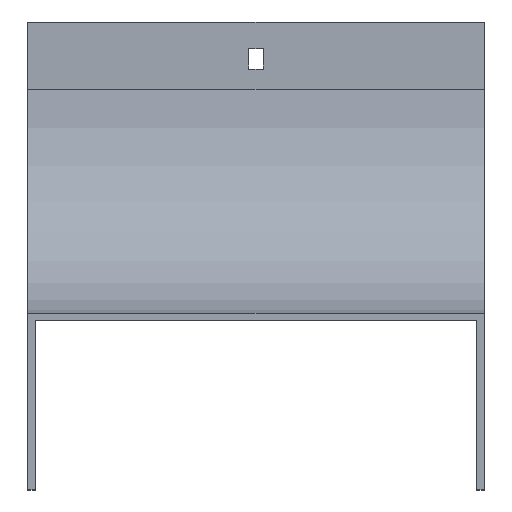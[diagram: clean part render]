
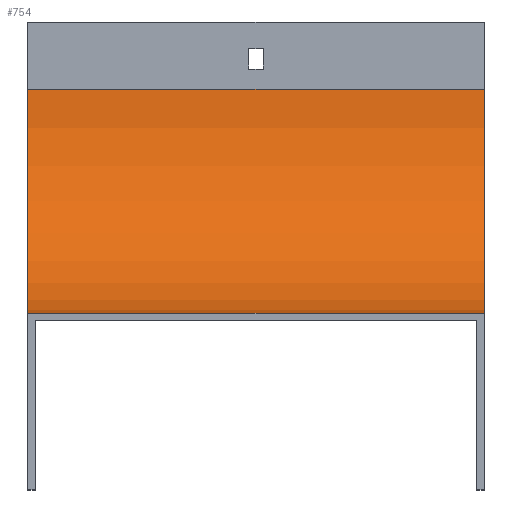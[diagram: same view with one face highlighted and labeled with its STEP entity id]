
A CAD part, front view. The second image highlights one B-rep face of the part: STEP entity #754.
In plain terms, the highlighted cylindrical face has radius 100 mm (diameter 200 mm), a partial arc.
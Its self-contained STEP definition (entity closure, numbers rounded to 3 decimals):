
#31 = CYLINDRICAL_SURFACE ( 'NONE', #1775, 100. ) ;
#204 = CARTESIAN_POINT ( 'NONE',  ( -102., -100., -130. ) ) ;
#268 = CARTESIAN_POINT ( 'NONE',  ( -102., 0., -30. ) ) ;
#309 = DIRECTION ( 'NONE',  ( -1., 0., 0. ) ) ;
#316 = EDGE_LOOP ( 'NONE', ( #1217, #617, #999, #1318 ) ) ;
#324 = AXIS2_PLACEMENT_3D ( 'NONE', #1812, #309, #1644 ) ;
#488 = DIRECTION ( 'NONE',  ( 0., 0., 1. ) ) ;
#561 = LINE ( 'NONE', #1627, #1456 ) ;
#617 = ORIENTED_EDGE ( 'NONE', *, *, #1671, .F. ) ;
#623 = CARTESIAN_POINT ( 'NONE',  ( 102., -100., -30. ) ) ;
#684 = LINE ( 'NONE', #1441, #954 ) ;
#698 = VERTEX_POINT ( 'NONE', #1833 ) ;
#754 = ADVANCED_FACE ( 'NONE', ( #1846 ), #31, .F. ) ;
#908 = DIRECTION ( 'NONE',  ( -1., 0., 0. ) ) ;
#911 = EDGE_CURVE ( 'NONE', #1338, #1388, #561, .T. ) ;
#954 = VECTOR ( 'NONE', #1171, 1000. ) ;
#988 = DIRECTION ( 'NONE',  ( -1., 0., 0. ) ) ;
#999 = ORIENTED_EDGE ( 'NONE', *, *, #1121, .F. ) ;
#1000 = EDGE_CURVE ( 'NONE', #1388, #1271, #1491, .T. ) ;
#1121 = EDGE_CURVE ( 'NONE', #1338, #698, #1621, .T. ) ;
#1171 = DIRECTION ( 'NONE',  ( -1., 0., 0. ) ) ;
#1217 = ORIENTED_EDGE ( 'NONE', *, *, #1000, .T. ) ;
#1271 = VERTEX_POINT ( 'NONE', #204 ) ;
#1318 = ORIENTED_EDGE ( 'NONE', *, *, #911, .T. ) ;
#1336 = DIRECTION ( 'NONE',  ( -1., 0., 0. ) ) ;
#1338 = VERTEX_POINT ( 'NONE', #1462 ) ;
#1388 = VERTEX_POINT ( 'NONE', #268 ) ;
#1441 = CARTESIAN_POINT ( 'NONE',  ( 102., -100., -130. ) ) ;
#1456 = VECTOR ( 'NONE', #1336, 1000. ) ;
#1462 = CARTESIAN_POINT ( 'NONE',  ( 102., 0., -30. ) ) ;
#1482 = CARTESIAN_POINT ( 'NONE',  ( -102., -100., -30. ) ) ;
#1491 = CIRCLE ( 'NONE', #1559, 100. ) ;
#1559 = AXIS2_PLACEMENT_3D ( 'NONE', #1482, #988, #1614 ) ;
#1614 = DIRECTION ( 'NONE',  ( 0., 0., 1. ) ) ;
#1621 = CIRCLE ( 'NONE', #324, 100. ) ;
#1627 = CARTESIAN_POINT ( 'NONE',  ( 102., 0., -30. ) ) ;
#1644 = DIRECTION ( 'NONE',  ( 0., 0., 1. ) ) ;
#1671 = EDGE_CURVE ( 'NONE', #698, #1271, #684, .T. ) ;
#1775 = AXIS2_PLACEMENT_3D ( 'NONE', #623, #908, #488 ) ;
#1812 = CARTESIAN_POINT ( 'NONE',  ( 102., -100., -30. ) ) ;
#1833 = CARTESIAN_POINT ( 'NONE',  ( 102., -100., -130. ) ) ;
#1846 = FACE_OUTER_BOUND ( 'NONE', #316, .T. ) ;
